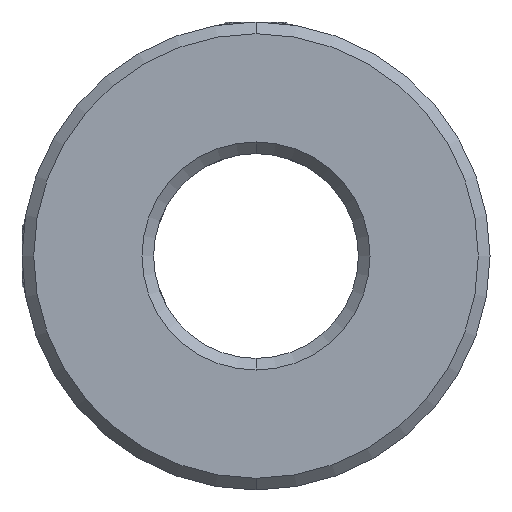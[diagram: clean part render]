
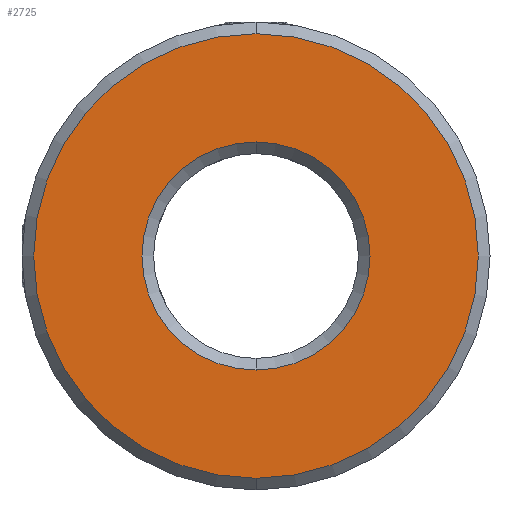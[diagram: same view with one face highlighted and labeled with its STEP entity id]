
A CAD part, front view. The second image highlights one B-rep face of the part: STEP entity #2725.
In plain terms, the highlighted planar face has unit normal (0, -1, 0).
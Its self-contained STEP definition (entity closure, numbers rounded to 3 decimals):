
#56 = AXIS2_PLACEMENT_3D ( 'NONE', #3225, #157, #141 ) ;
#141 = DIRECTION ( 'NONE',  ( 0., 0., 1. ) ) ;
#157 = DIRECTION ( 'NONE',  ( 0., 1., 0. ) ) ;
#291 = VERTEX_POINT ( 'NONE', #3648 ) ;
#431 = CARTESIAN_POINT ( 'NONE',  ( -10.188, -0.277, 15.246 ) ) ;
#682 = DIRECTION ( 'NONE',  ( 0., 1., 0. ) ) ;
#684 = DIRECTION ( 'NONE',  ( 0., -1., 0. ) ) ;
#751 = CARTESIAN_POINT ( 'NONE',  ( -10.188, -0.277, -15.154 ) ) ;
#817 = CARTESIAN_POINT ( 'NONE',  ( -10.188, -0.277, 0.046 ) ) ;
#834 = DIRECTION ( 'NONE',  ( 0., 0., 1. ) ) ;
#926 = EDGE_CURVE ( 'NONE', #291, #3678, #2301, .T. ) ;
#950 = CARTESIAN_POINT ( 'NONE',  ( -10.188, -0.277, 0.046 ) ) ;
#967 = EDGE_LOOP ( 'NONE', ( #2453, #3339 ) ) ;
#984 = CIRCLE ( 'NONE', #2840, 15.2 ) ;
#1023 = AXIS2_PLACEMENT_3D ( 'NONE', #1569, #682, #2358 ) ;
#1364 = CARTESIAN_POINT ( 'NONE',  ( -10.188, -0.277, -7.754 ) ) ;
#1569 = CARTESIAN_POINT ( 'NONE',  ( -10.188, -0.277, 0.046 ) ) ;
#1692 = FACE_OUTER_BOUND ( 'NONE', #967, .T. ) ;
#1811 = CIRCLE ( 'NONE', #56, 7.8 ) ;
#1995 = VERTEX_POINT ( 'NONE', #431 ) ;
#2255 = FACE_BOUND ( 'NONE', #2329, .T. ) ;
#2258 = ORIENTED_EDGE ( 'NONE', *, *, #2649, .T. ) ;
#2301 = CIRCLE ( 'NONE', #1023, 7.8 ) ;
#2329 = EDGE_LOOP ( 'NONE', ( #2258, #3160 ) ) ;
#2358 = DIRECTION ( 'NONE',  ( 0., 0., 1. ) ) ;
#2453 = ORIENTED_EDGE ( 'NONE', *, *, #2517, .T. ) ;
#2504 = DIRECTION ( 'NONE',  ( 0., -1., 0. ) ) ;
#2517 = EDGE_CURVE ( 'NONE', #1995, #3142, #984, .T. ) ;
#2538 = CIRCLE ( 'NONE', #3009, 15.2 ) ;
#2577 = DIRECTION ( 'NONE',  ( 0., 0., 1. ) ) ;
#2649 = EDGE_CURVE ( 'NONE', #3678, #291, #1811, .T. ) ;
#2725 = ADVANCED_FACE ( 'NONE', ( #1692, #2255 ), #3387, .F. ) ;
#2778 = CARTESIAN_POINT ( 'NONE',  ( -10.188, -0.277, 0.046 ) ) ;
#2840 = AXIS2_PLACEMENT_3D ( 'NONE', #950, #684, #2577 ) ;
#3009 = AXIS2_PLACEMENT_3D ( 'NONE', #817, #2504, #3611 ) ;
#3142 = VERTEX_POINT ( 'NONE', #751 ) ;
#3160 = ORIENTED_EDGE ( 'NONE', *, *, #926, .T. ) ;
#3225 = CARTESIAN_POINT ( 'NONE',  ( -10.188, -0.277, 0.046 ) ) ;
#3339 = ORIENTED_EDGE ( 'NONE', *, *, #3605, .T. ) ;
#3387 = PLANE ( 'NONE',  #3556 ) ;
#3556 = AXIS2_PLACEMENT_3D ( 'NONE', #2778, #3670, #834 ) ;
#3605 = EDGE_CURVE ( 'NONE', #3142, #1995, #2538, .T. ) ;
#3611 = DIRECTION ( 'NONE',  ( 0., 0., 1. ) ) ;
#3648 = CARTESIAN_POINT ( 'NONE',  ( -10.188, -0.277, 7.846 ) ) ;
#3670 = DIRECTION ( 'NONE',  ( 0., 1., 0. ) ) ;
#3678 = VERTEX_POINT ( 'NONE', #1364 ) ;
